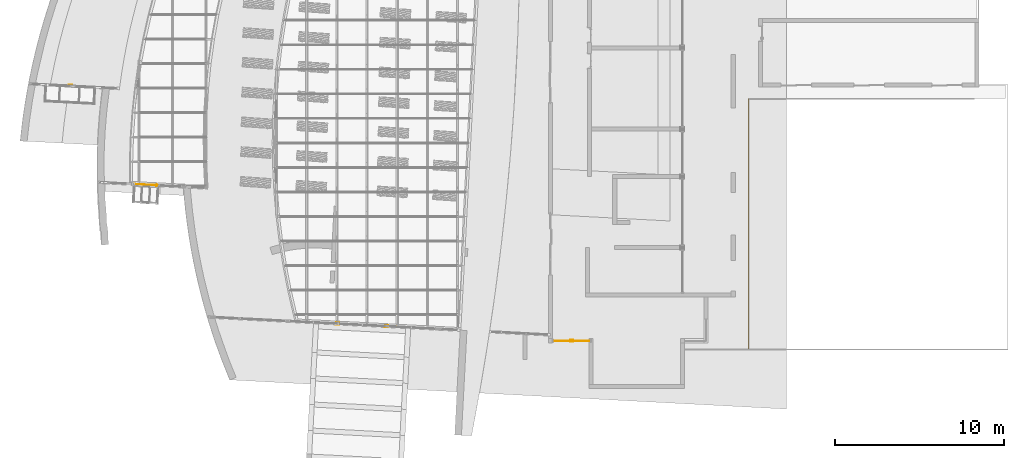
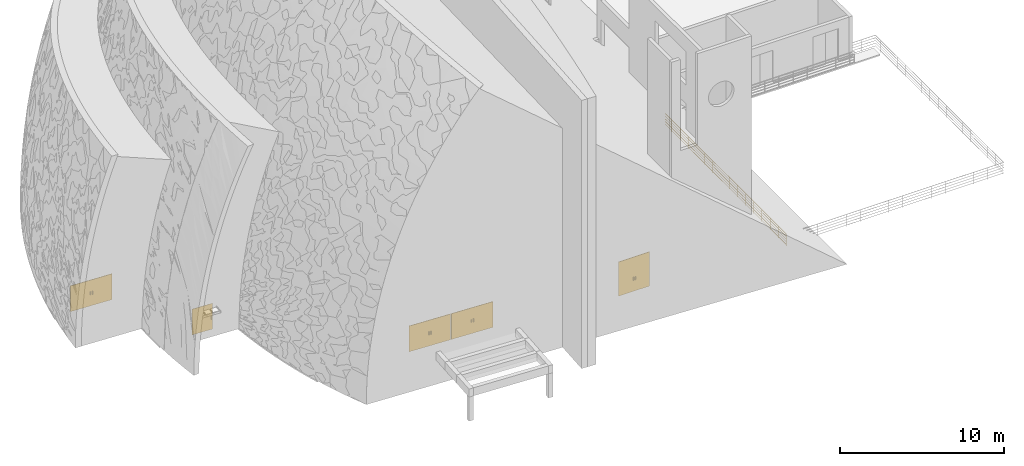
# One storey, part 72 of 82: 5 doors, 1 railing, 4 elements without a shape of their own.
"""IFC2X3 building model written with IfcOpenShell, lengths in millimetres."""

from ifc_helpers import new_model, entity, si_unit, converted_unit, derived_unit, direction, frame, frame_2d, origin, origin_2d_with_axis, place, context, subcontext, project, spatial, polyline, rectangle, circle, outline, extrude, source, transform, mapped, material, material_list, type_object, type_shapes, element, aggregate, save


model = new_model("IFC2X3")

# Units and contexts
model_context = context("Model", 3, precision=0.01, world=origin(), true_north=direction((6.12303176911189e-17, 1.0)))
body_context = subcontext(model_context, "Body", "Model", "MODEL_VIEW")
ifc_project = project(units=[si_unit("LENGTHUNIT", "METRE", prefix="MILLI"), si_unit("AREAUNIT", "SQUARE_METRE"), si_unit("VOLUMEUNIT", "CUBIC_METRE"), converted_unit("PLANEANGLEUNIT", "DEGREE", entity("IfcRatioMeasure", 0.0174532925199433), si_unit("PLANEANGLEUNIT", "RADIAN"), dimensions=[0, 0, 0, 0, 0, 0, 0]), si_unit("MASSUNIT", "GRAM", prefix="KILO"), derived_unit("MASSDENSITYUNIT", [(si_unit("MASSUNIT", "GRAM", prefix="KILO"), 1), (si_unit("LENGTHUNIT", "METRE"), -3)]), si_unit("TIMEUNIT", "SECOND"), si_unit("FREQUENCYUNIT", "HERTZ"), si_unit("THERMODYNAMICTEMPERATUREUNIT", "DEGREE_CELSIUS"), derived_unit("THERMALTRANSMITTANCEUNIT", [(si_unit("MASSUNIT", "GRAM", prefix="KILO"), 1), (si_unit("THERMODYNAMICTEMPERATUREUNIT", "KELVIN"), -1), (si_unit("TIMEUNIT", "SECOND"), -3)]), derived_unit("VOLUMETRICFLOWRATEUNIT", [(si_unit("LENGTHUNIT", "METRE"), 3), (si_unit("TIMEUNIT", "SECOND"), -1)]), si_unit("ELECTRICCURRENTUNIT", "AMPERE"), si_unit("ELECTRICVOLTAGEUNIT", "VOLT"), si_unit("POWERUNIT", "WATT"), si_unit("FORCEUNIT", "NEWTON", prefix="KILO"), si_unit("ILLUMINANCEUNIT", "LUX"), si_unit("LUMINOUSFLUXUNIT", "LUMEN"), si_unit("LUMINOUSINTENSITYUNIT", "CANDELA"), derived_unit("USERDEFINED", [(si_unit("MASSUNIT", "GRAM", prefix="KILO"), -1), (si_unit("LENGTHUNIT", "METRE"), -2), (si_unit("TIMEUNIT", "SECOND"), 3), (si_unit("LUMINOUSFLUXUNIT", "LUMEN"), 1)]), derived_unit("LINEARVELOCITYUNIT", [(si_unit("LENGTHUNIT", "METRE"), 1), (si_unit("TIMEUNIT", "SECOND"), -1)]), si_unit("PRESSUREUNIT", "PASCAL"), derived_unit("USERDEFINED", [(si_unit("LENGTHUNIT", "METRE"), -2), (si_unit("MASSUNIT", "GRAM", prefix="KILO"), 1), (si_unit("TIMEUNIT", "SECOND"), -2)])], contexts=[model_context])

# Site, building, storey
site_placement = place(None, origin())
site = spatial("IfcSite", under=ifc_project, at=site_placement, Name="表面", CompositionType="ELEMENT")
building_placement = place(site_placement, origin())
building = spatial("IfcBuilding", under=site, at=building_placement, CompositionType="ELEMENT")
storey_placement = place(building_placement, origin())
storey = spatial("IfcBuildingStorey", under=building, at=storey_placement, Name="1F", CompositionType="ELEMENT", Elevation=0.0)

# Curtain wall, door
curtain_wall_type_1 = type_object("IfcCurtainWallType", Name="幕墙系统:1450 x 2100mm", PredefinedType="NOTDEFINED")
curtain_wall_1_placement = place(storey_placement, origin())
curtain_wall_1 = element("IfcCurtainWall", 1, at=curtain_wall_1_placement, inside=storey, type_object=curtain_wall_type_1, Name="幕墙系统:1450 x 2100mm", ObjectType="幕墙系统:1450 x 2100mm")
ifc_material_1 = material(Name="金属 - 铝")
ifc_material_2 = material(Name="玻璃")
ifc_material_list_1 = material_list([ifc_material_1, ifc_material_2])
ifc_material_list_2 = material_list([ifc_material_1, ifc_material_2])
door_style_1 = type_object("IfcDoorStyle", Name="幕墙双开玻璃门 1800/2100", ConstructionType="NOTDEFINED", OperationType="DOUBLE_DOOR_SINGLE_SWING", ParameterTakesPrecedence=False, Sizeable=False, material=ifc_material_list_2)
shared_shape_1 = source(origin(), body_context, "Body", "SweptSolid", [
    extrude(outline(polyline([(-15.4000000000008, -16.933333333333), (24.4500000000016, -16.933333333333), (24.4500000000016, -10.583333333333), (-9.05000000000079, -10.583333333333), (-9.05000000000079, 27.5166666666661), (-15.4000000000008, 27.5166666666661), (-15.4000000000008, -16.933333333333)])), frame((67.7333333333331, 39.4500000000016, 850.0), z_axis=(0.0, 0.0, 1.0), x_axis=(0.0, -1.0, 0.0)), (0.0, 0.0, 1.0), 249.999999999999),
    extrude(outline(polyline([(-16.933333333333, -15.4000000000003), (27.516666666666, -15.4000000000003), (27.516666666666, -9.05000000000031), (-10.583333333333, -9.05000000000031), (-10.583333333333, 24.4500000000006), (-16.933333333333, 24.4500000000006), (-16.933333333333, -15.4000000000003)])), frame((-67.7333333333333, 39.4500000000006, 850.0), z_axis=(0.0, 0.0, 1.0), x_axis=(-1.0, 0.0, 0.0)), (0.0, 0.0, 1.0), 249.999999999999),
    extrude(outline(polyline([(-19.0500000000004, -16.9333333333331), (31.7500000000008, -16.9333333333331), (31.7500000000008, -10.5833333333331), (-12.7000000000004, -10.5833333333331), (-12.7000000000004, 27.5166666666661), (-19.0500000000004, 27.5166666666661), (-19.0500000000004, -16.9333333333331)])), frame((-67.7333333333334, -46.7500000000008, 850.0), z_axis=(0.0, 0.0, 1.0), x_axis=(0.0, 1.0, 0.0)), (0.0, 0.0, 1.0), 249.999999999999),
    extrude(outline(polyline([(-16.933333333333, -19.0500000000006), (27.516666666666, -19.0500000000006), (27.516666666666, -12.7000000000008), (-10.583333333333, -12.7000000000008), (-10.583333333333, 31.7500000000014), (-16.933333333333, 31.7500000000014), (-16.933333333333, -19.0500000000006)])), frame((67.7333333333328, -46.7500000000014, 850.0)), (0.0, 0.0, 1.0), 249.999999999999),
    extrude(rectangle(XDim=29.9999999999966, YDim=1423.41250000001, at=origin_2d_with_axis()), frame((-713.293750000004, 0.0, 0.0), z_axis=(0.0, 0.0, 1.0), x_axis=(0.0, 1.0, 0.0)), (0.0, 0.0, 1.0), 1925.0),
    extrude(rectangle(XDim=29.9999999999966, YDim=1423.41250000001, at=frame_2d((0.0, 1.13686837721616e-13), x_axis=(1.0, 0.0))), frame((713.293750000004, 0.0, 0.0), z_axis=(0.0, 0.0, 1.0), x_axis=(0.0, 1.0, 0.0)), (0.0, 0.0, 1.0), 1925.0),
])
type_shapes(door_style_1, [shared_shape_1])
door_1_placement = place(curtain_wall_1_placement, frame((-42784.959225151, -14362.7461121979, 150.0), z_axis=(0.0, 0.0, 1.0), x_axis=(-0.998629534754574, 0.0523359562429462, 0.0)))
door_1 = element("IfcDoor", 2, at=door_1_placement, type_object=door_style_1, material=ifc_material_list_1, Name="幕墙双开玻璃门:幕墙双开玻璃门 1800/2100", ObjectType="幕墙双开玻璃门 1800/2100", OverallHeight=1926.85530434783, OverallWidth=2850.00000000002, context=body_context, shape_type="MappedRepresentation", body=[
    mapped(shared_shape_1, transform((0.0, 0.0, 0.0), scale=1.0)),
])
aggregate(curtain_wall_1, [door_1])

# Curtain wall, doors
curtain_wall_2_placement = place(storey_placement, origin())
curtain_wall_2 = element("IfcCurtainWall", 3, at=curtain_wall_2_placement, inside=storey, type_object=curtain_wall_type_1, Name="幕墙系统:1450 x 2100mm", ObjectType="幕墙系统:1450 x 2100mm")
ifc_material_list_3 = material_list([ifc_material_1, ifc_material_2])
door_2_placement = place(curtain_wall_2_placement, frame((-24104.6517307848, -28559.8545114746, 150.0), z_axis=(0.0, 0.0, 1.0), x_axis=(-0.998629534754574, 0.0523359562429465, 0.0)))
door_2 = element("IfcDoor", 4, at=door_2_placement, type_object=door_style_1, material=ifc_material_list_3, Name="幕墙双开玻璃门:幕墙双开玻璃门 1800/2100", ObjectType="幕墙双开玻璃门 1800/2100", OverallHeight=1926.85530434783, OverallWidth=2850.00000000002, context=body_context, shape_type="MappedRepresentation", body=[
    mapped(shared_shape_1, transform((0.0, 0.0, 0.0), scale=1.0)),
])
ifc_material_list_4 = material_list([ifc_material_1, ifc_material_2])
door_3_placement = place(curtain_wall_2_placement, frame((-27000.6773815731, -28408.08023837, 150.0), z_axis=(0.0, 0.0, 1.0), x_axis=(-0.998629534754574, 0.0523359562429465, 0.0)))
door_3 = element("IfcDoor", 5, at=door_3_placement, type_object=door_style_1, material=ifc_material_list_4, Name="幕墙双开玻璃门:幕墙双开玻璃门 1800/2100", ObjectType="幕墙双开玻璃门 1800/2100", OverallHeight=1926.85530434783, OverallWidth=2850.00000000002, context=body_context, shape_type="MappedRepresentation", body=[
    mapped(shared_shape_1, transform((0.0, 0.0, 0.0), scale=1.0)),
])
aggregate(curtain_wall_2, [door_2, door_3])

# Curtain wall, door
curtain_wall_type_2 = type_object("IfcCurtainWallType", Name="幕墙:幕墙 2", PredefinedType="NOTDEFINED")
curtain_wall_3_placement = place(storey_placement, origin())
curtain_wall_3 = element("IfcCurtainWall", 6, at=curtain_wall_3_placement, inside=storey, type_object=curtain_wall_type_2, Name="幕墙:幕墙 2", ObjectType="幕墙:幕墙 2")
ifc_material_list_5 = material_list([ifc_material_1, ifc_material_2])
ifc_material_list_6 = material_list([ifc_material_1, ifc_material_2])
door_style_2 = type_object("IfcDoorStyle", Name="幕墙双开玻璃门 1800/2100", ConstructionType="NOTDEFINED", OperationType="DOUBLE_DOOR_SINGLE_SWING", ParameterTakesPrecedence=False, Sizeable=False, material=ifc_material_list_6)
shared_shape_2 = source(origin(), body_context, "Body", "SweptSolid", [
    extrude(outline(polyline([(-15.4000000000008, -16.933333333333), (24.4500000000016, -16.933333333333), (24.4500000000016, -10.583333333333), (-9.05000000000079, -10.583333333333), (-9.05000000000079, 27.5166666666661), (-15.4000000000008, 27.5166666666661), (-15.4000000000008, -16.933333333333)])), frame((67.7333333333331, 39.4500000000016, 850.0), z_axis=(0.0, 0.0, 1.0), x_axis=(0.0, -1.0, 0.0)), (0.0, 0.0, 1.0), 249.999999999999),
    extrude(outline(polyline([(-16.933333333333, -15.4000000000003), (27.516666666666, -15.4000000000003), (27.516666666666, -9.05000000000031), (-10.583333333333, -9.05000000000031), (-10.583333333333, 24.4500000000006), (-16.933333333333, 24.4500000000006), (-16.933333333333, -15.4000000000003)])), frame((-67.7333333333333, 39.4500000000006, 850.0), z_axis=(0.0, 0.0, 1.0), x_axis=(-1.0, 0.0, 0.0)), (0.0, 0.0, 1.0), 249.999999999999),
    extrude(outline(polyline([(-19.0500000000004, -16.9333333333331), (31.7500000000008, -16.9333333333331), (31.7500000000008, -10.5833333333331), (-12.7000000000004, -10.5833333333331), (-12.7000000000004, 27.5166666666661), (-19.0500000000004, 27.5166666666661), (-19.0500000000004, -16.9333333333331)])), frame((-67.7333333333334, -46.7500000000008, 850.0), z_axis=(0.0, 0.0, 1.0), x_axis=(0.0, 1.0, 0.0)), (0.0, 0.0, 1.0), 249.999999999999),
    extrude(outline(polyline([(-16.933333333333, -19.0500000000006), (27.516666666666, -19.0500000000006), (27.516666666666, -12.7000000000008), (-10.583333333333, -12.7000000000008), (-10.583333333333, 31.7500000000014), (-16.933333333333, 31.7500000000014), (-16.933333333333, -19.0500000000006)])), frame((67.7333333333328, -46.7500000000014, 850.0)), (0.0, 0.0, 1.0), 249.999999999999),
    extrude(rectangle(XDim=29.9999999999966, YDim=1088.4125, at=origin_2d_with_axis()), frame((-545.793750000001, 0.0, 0.0), z_axis=(0.0, 0.0, 1.0), x_axis=(0.0, 1.0, 0.0)), (0.0, 0.0, 1.0), 2550.0),
    extrude(rectangle(XDim=29.9999999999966, YDim=1088.4125, at=origin_2d_with_axis()), frame((545.793750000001, 0.0, 0.0), z_axis=(0.0, 0.0, 1.0), x_axis=(0.0, 1.0, 0.0)), (0.0, 0.0, 1.0), 2550.0),
])
type_shapes(door_style_2, [shared_shape_2])
door_4_placement = place(curtain_wall_3_placement, frame((-13170.2499126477, -29416.868426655, 0.0)))
door_4 = element("IfcDoor", 7, at=door_4_placement, type_object=door_style_2, material=ifc_material_list_5, Name="幕墙双开玻璃门:幕墙双开玻璃门 1800/2100", ObjectType="幕墙双开玻璃门 1800/2100", OverallHeight=2551.85530434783, OverallWidth=2180.0, context=body_context, shape_type="MappedRepresentation", body=[
    mapped(shared_shape_2, transform((0.0, 0.0, 0.0), scale=1.0)),
])
aggregate(curtain_wall_3, [door_4])

curtain_wall_4_placement = place(storey_placement, origin())
curtain_wall_4 = element("IfcCurtainWall", 8, at=curtain_wall_4_placement, inside=storey, type_object=curtain_wall_type_1, Name="幕墙系统:1450 x 2100mm", ObjectType="幕墙系统:1450 x 2100mm")
ifc_material_list_7 = material_list([ifc_material_1, ifc_material_2])
ifc_material_list_8 = material_list([ifc_material_1, ifc_material_2])
door_style_3 = type_object("IfcDoorStyle", Name="幕墙单开玻璃门 900/2100", ConstructionType="NOTDEFINED", OperationType="SINGLE_SWING_LEFT", ParameterTakesPrecedence=False, Sizeable=False, material=ifc_material_list_8)
shared_shape_3 = source(origin(), body_context, "Body", "SweptSolid", [
    extrude(rectangle(XDim=50.8, YDim=25.4, at=frame_2d((3.5527136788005e-15, 6.75015598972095e-14), x_axis=(1.0, 0.0))), frame((-611.100000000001, -38.0999999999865, 762.0), z_axis=(0.0, 0.0, 1.0), x_axis=(0.0, 1.0, 0.0)), (0.0, 0.0, 1.0), 228.6),
    extrude(rectangle(XDim=50.8, YDim=25.3999999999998, at=frame_2d((0.0, -6.75015598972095e-14), x_axis=(1.0, 0.0))), frame((-611.100000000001, 25.4000000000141, 762.0), z_axis=(0.0, 0.0, 1.0), x_axis=(0.0, -1.0, 0.0)), (0.0, 0.0, 1.0), 228.6),
    extrude(rectangle(XDim=1400.0, YDim=12.7000000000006, at=origin_2d_with_axis()), frame((0.0, -6.34999999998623, 0.0), z_axis=(0.0, 0.0, 1.0), x_axis=(-1.0, 0.0, 0.0)), (0.0, 0.0, 1.0), 1925.0),
])
type_shapes(door_style_3, [shared_shape_3])
door_5_placement = place(curtain_wall_4_placement, frame((-38302.4575624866, -20201.7775291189, 150.0), z_axis=(0.0, 0.0, 1.0), x_axis=(-0.998629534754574, 0.0523359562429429, 0.0)))
door_5 = element("IfcDoor", 9, at=door_5_placement, type_object=door_style_3, material=ifc_material_list_7, Name="幕墙单开玻璃门:幕墙单开玻璃门 900/2100", ObjectType="幕墙单开玻璃门 900/2100", OverallHeight=1925.0, OverallWidth=1400.0, context=body_context, shape_type="MappedRepresentation", body=[
    mapped(shared_shape_3, transform((0.0, 0.0, 0.0), scale=1.0)),
])
aggregate(curtain_wall_4, [door_5])

# Railing
ifc_material_3 = material(Name="不锈钢")
railing_placement = place(storey_placement, origin())
element("IfcRailing", 10, at=railing_placement, inside=storey, material=ifc_material_3, Name="栏杆扶手:900mm 圆管", ObjectType="栏杆扶手:900mm 圆管", PredefinedType="NOTDEFINED", context=body_context, shape_type="SweptSolid", body=[
    extrude(circle(Radius=12.5, at=origin_2d_with_axis()), frame((-2705.24991264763, -15912.8459129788, 0.0), z_axis=(0.0, 0.0, 1.0), x_axis=(-1.0, 0.0, 0.0)), (0.0, 0.0, 1.0), 860.0),
    extrude(circle(Radius=12.5, at=origin_2d_with_axis()), frame((-2705.24991264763, -16912.8459129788, 0.0), z_axis=(0.0, 0.0, 1.0), x_axis=(-1.0, 0.0, 0.0)), (0.0, 0.0, 1.0), 860.0),
    extrude(circle(Radius=12.5, at=origin_2d_with_axis()), frame((-2705.24991264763, -17912.8459129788, 0.0), z_axis=(0.0, 0.0, 1.0), x_axis=(-1.0, 0.0, 0.0)), (0.0, 0.0, 1.0), 860.0),
    extrude(circle(Radius=12.5, at=origin_2d_with_axis()), frame((-2705.24991264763, -18912.8459129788, 0.0), z_axis=(0.0, 0.0, 1.0), x_axis=(-1.0, 0.0, 0.0)), (0.0, 0.0, 1.0), 860.0),
    extrude(circle(Radius=12.5, at=origin_2d_with_axis()), frame((-2705.24991264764, -19912.8459129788, 0.0), z_axis=(0.0, 0.0, 1.0), x_axis=(-1.0, 0.0, 0.0)), (0.0, 0.0, 1.0), 860.0),
    extrude(circle(Radius=12.5, at=origin_2d_with_axis()), frame((-2705.24991264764, -20912.8459129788, 0.0), z_axis=(0.0, 0.0, 1.0), x_axis=(-1.0, 0.0, 0.0)), (0.0, 0.0, 1.0), 860.0),
    extrude(circle(Radius=12.5, at=origin_2d_with_axis()), frame((-2705.24991264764, -21912.8459129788, 0.0), z_axis=(0.0, 0.0, 1.0), x_axis=(-1.0, 0.0, 0.0)), (0.0, 0.0, 1.0), 860.0),
    extrude(circle(Radius=12.5, at=origin_2d_with_axis()), frame((-2705.24991264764, -22912.8459129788, 0.0), z_axis=(0.0, 0.0, 1.0), x_axis=(-1.0, 0.0, 0.0)), (0.0, 0.0, 1.0), 860.0),
    extrude(circle(Radius=12.5, at=origin_2d_with_axis()), frame((-2705.24991264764, -23912.8459129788, 0.0), z_axis=(0.0, 0.0, 1.0), x_axis=(-1.0, 0.0, 0.0)), (0.0, 0.0, 1.0), 860.0),
    extrude(circle(Radius=12.5, at=origin_2d_with_axis()), frame((-2705.24991264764, -24912.8459129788, 0.0), z_axis=(0.0, 0.0, 1.0), x_axis=(-1.0, 0.0, 0.0)), (0.0, 0.0, 1.0), 860.0),
    extrude(circle(Radius=12.5, at=origin_2d_with_axis()), frame((-2705.24991264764, -25912.8459129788, 0.0), z_axis=(0.0, 0.0, 1.0), x_axis=(-1.0, 0.0, 0.0)), (0.0, 0.0, 1.0), 860.0),
    extrude(circle(Radius=12.5, at=origin_2d_with_axis()), frame((-2705.24991264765, -26912.8459129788, 0.0), z_axis=(0.0, 0.0, 1.0), x_axis=(-1.0, 0.0, 0.0)), (0.0, 0.0, 1.0), 860.0),
    extrude(circle(Radius=12.5, at=origin_2d_with_axis()), frame((-2705.24991264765, -27912.8459129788, 0.0), z_axis=(0.0, 0.0, 1.0), x_axis=(-1.0, 0.0, 0.0)), (0.0, 0.0, 1.0), 860.0),
    extrude(circle(Radius=12.5, at=origin_2d_with_axis()), frame((-2705.24991264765, -28912.8459129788, 0.0), z_axis=(0.0, 0.0, 1.0), x_axis=(-1.0, 0.0, 0.0)), (0.0, 0.0, 1.0), 860.0),
    extrude(circle(Radius=12.5, at=origin_2d_with_axis()), frame((-2705.24991264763, -15125.3459129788, 0.0), z_axis=(0.0, 0.0, 1.0), x_axis=(-1.0, 0.0, 0.0)), (0.0, 0.0, 1.0), 860.0),
    extrude(circle(Radius=12.5, at=origin_2d_with_axis()), frame((-2705.24991264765, -29900.3459129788, 0.0), z_axis=(0.0, 0.0, 1.0), x_axis=(-1.0, 0.0, 0.0)), (0.0, 0.0, 1.0), 860.0),
    extrude(circle(Radius=20.0, at=frame_2d((0.0, -1.35358391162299e-13), x_axis=(1.0, 0.0))), frame((-2705.24991264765, -29912.8459129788, 880.0), z_axis=(0.0, 1.0, 0.0), x_axis=(1.0, 0.0, 0.0)), (0.0, 0.0, 1.0), 14800.0),
    extrude(circle(Radius=15.0, at=origin_2d_with_axis()), frame((-2705.24991264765, -29912.8459129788, 685.0), z_axis=(0.0, 1.0, 0.0), x_axis=(1.0, 0.0, 0.0)), (0.0, 0.0, 1.0), 14800.0),
    extrude(circle(Radius=15.0, at=origin_2d_with_axis()), frame((-2705.24991264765, -29912.8459129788, 485.0), z_axis=(0.0, 1.0, 0.0), x_axis=(1.0, 0.0, 0.0)), (0.0, 0.0, 1.0), 14800.0),
    extrude(circle(Radius=15.0, at=frame_2d((0.0, -3.38395977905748e-14), x_axis=(1.0, 0.0))), frame((-2705.24991264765, -29912.8459129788, 285.0), z_axis=(0.0, 1.0, 0.0), x_axis=(1.0, 0.0, 0.0)), (0.0, 0.0, 1.0), 14800.0),
    extrude(circle(Radius=15.0, at=frame_2d((0.0, -3.38395977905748e-14), x_axis=(1.0, 0.0))), frame((-2705.24991264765, -29912.8459129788, 85.0), z_axis=(0.0, 1.0, 0.0), x_axis=(1.0, 0.0, 0.0)), (0.0, 0.0, 1.0), 14800.0),
])

save(model, "model.ifc")
